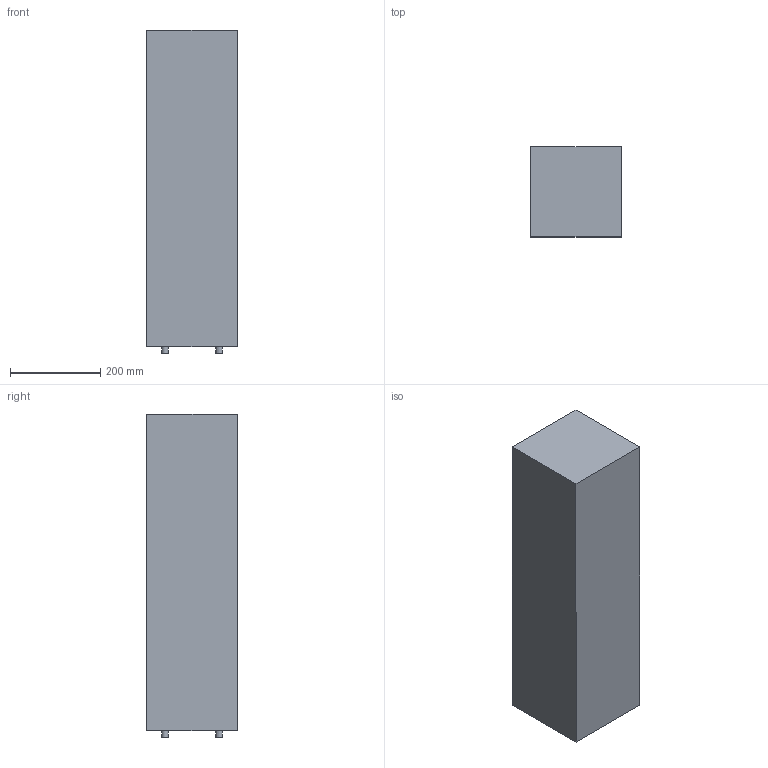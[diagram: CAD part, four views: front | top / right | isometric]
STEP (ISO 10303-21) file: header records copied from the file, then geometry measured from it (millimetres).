
FILE_DESCRIPTION(/* description */ (''),/* implementation_level */ '2;1');
FILE_NAME(/* name */ 'C:/Users/LukasGröber/GMS Cloud/Groeber Mannheim Lichtwerke - Dokumente/Marketing/Produkte/3D CAD Daten/Lichtsäule Eifel im Herbst/Lichtsäule Eifle im Herbst 70.step',/* time_stamp */ '2022-07-11T11:10:46+02:00',/* author */ (''),/* organization */ (''),/* preprocessor_version */ 'ST-DEVELOPER v19',/* originating_system */ 'Autodesk Translation Framework v11.7.0.108',/* authorisation */ '');
FILE_SCHEMA (('AUTOMOTIVE_DESIGN { 1 0 10303 214 3 1 1 }'));
Length unit declared in the file: millimetre
Products named in the file (1): Lichtsäule Eifle im Herbst 70
Bounding box: 200 x 200 x 715 mm (x, y, z)
Volume: 28010602.9 mm3; surface area: 642827.4 mm2
Topology: 1 solids, 1 shells, 14 faces, 24 edges, 16 vertices
Faces by surface type: plane 10, cylinder 4
Full cylindrical faces by diameter (mm): 15 x4
Entity records: 392 total; most frequent: DIRECTION 62, CARTESIAN_POINT 55, ORIENTED_EDGE 48, EDGE_CURVE 24, AXIS2_PLACEMENT_3D 23, EDGE_LOOP 18, LINE 16, VECTOR 16
